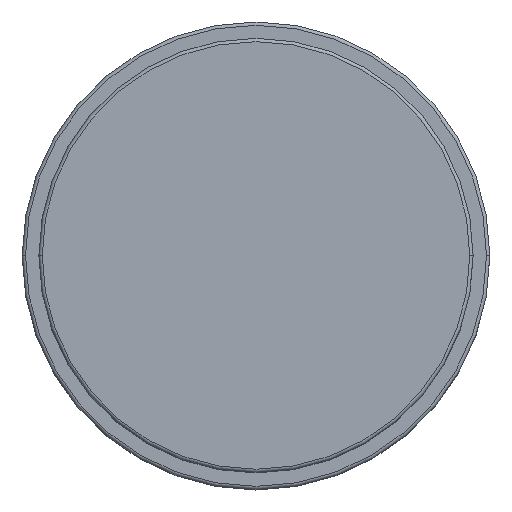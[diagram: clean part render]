
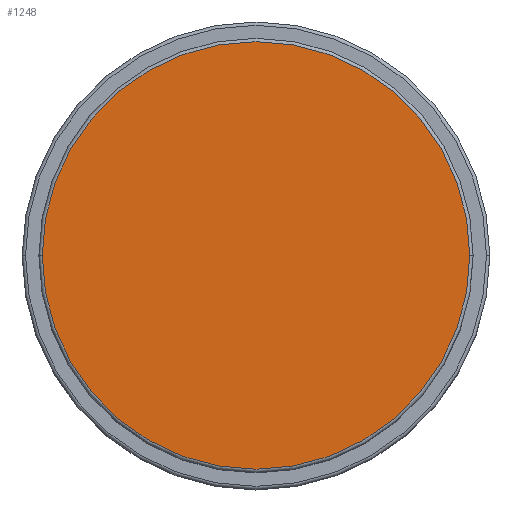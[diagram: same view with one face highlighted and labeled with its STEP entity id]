
A CAD part, top view. The second image highlights one B-rep face of the part: STEP entity #1248.
In plain terms, the highlighted planar face has unit normal (0, 0, 1).
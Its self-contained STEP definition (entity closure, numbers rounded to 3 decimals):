
#16 = CARTESIAN_POINT ( 'NONE',  ( -32., 0., 62. ) ) ;
#67 = EDGE_CURVE ( 'NONE', #265, #682, #681, .T. ) ;
#97 = AXIS2_PLACEMENT_3D ( 'NONE', #235, #1136, #358 ) ;
#149 = FACE_OUTER_BOUND ( 'NONE', #551, .T. ) ;
#191 = CARTESIAN_POINT ( 'NONE',  ( 0., 0., 62. ) ) ;
#235 = CARTESIAN_POINT ( 'NONE',  ( 0., 0., 62. ) ) ;
#259 = EDGE_CURVE ( 'NONE', #682, #265, #680, .T. ) ;
#265 = VERTEX_POINT ( 'NONE', #679 ) ;
#351 = DIRECTION ( 'NONE',  ( 1., 0., 0. ) ) ;
#358 = DIRECTION ( 'NONE',  ( 1., 0., 0. ) ) ;
#413 = ORIENTED_EDGE ( 'NONE', *, *, #259, .T. ) ;
#427 = DIRECTION ( 'NONE',  ( 1., 0., 0. ) ) ;
#442 = DIRECTION ( 'NONE',  ( 0., 0., 1. ) ) ;
#492 = DIRECTION ( 'NONE',  ( 0., 0., 1. ) ) ;
#551 = EDGE_LOOP ( 'NONE', ( #981, #413 ) ) ;
#679 = CARTESIAN_POINT ( 'NONE',  ( 32., 0., 62. ) ) ;
#680 = CIRCLE ( 'NONE', #1082, 32. ) ;
#681 = CIRCLE ( 'NONE', #97, 32. ) ;
#682 = VERTEX_POINT ( 'NONE', #16 ) ;
#981 = ORIENTED_EDGE ( 'NONE', *, *, #67, .T. ) ;
#1082 = AXIS2_PLACEMENT_3D ( 'NONE', #191, #442, #427 ) ;
#1096 = AXIS2_PLACEMENT_3D ( 'NONE', #1634, #492, #351 ) ;
#1134 = PLANE ( 'NONE',  #1096 ) ;
#1136 = DIRECTION ( 'NONE',  ( 0., 0., 1. ) ) ;
#1248 = ADVANCED_FACE ( 'NONE', ( #149 ), #1134, .T. ) ;
#1634 = CARTESIAN_POINT ( 'NONE',  ( 0., 0., 62. ) ) ;
